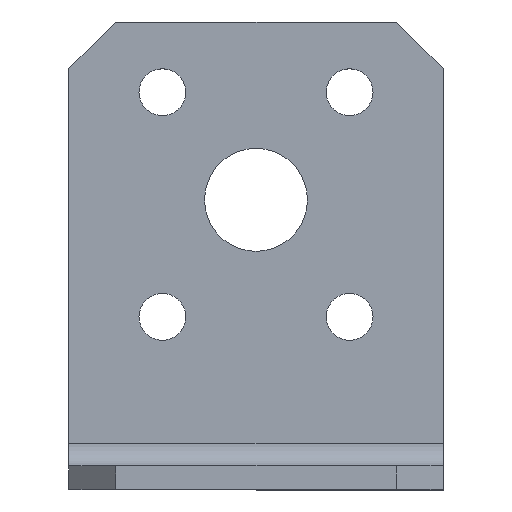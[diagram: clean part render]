
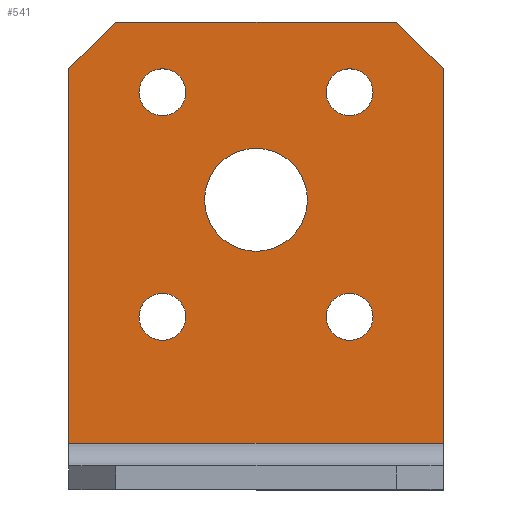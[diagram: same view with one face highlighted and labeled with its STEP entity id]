
A CAD part, top view. The second image highlights one B-rep face of the part: STEP entity #541.
In plain terms, the highlighted planar face has unit normal (0, 0, 1).
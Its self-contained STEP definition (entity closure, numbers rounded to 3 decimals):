
#9 = DIRECTION ( 'NONE',  ( 0., -1., 0. ) ) ;
#14 = ORIENTED_EDGE ( 'NONE', *, *, #347, .T. ) ;
#16 = VECTOR ( 'NONE', #75, 1000. ) ;
#24 = LINE ( 'NONE', #288, #480 ) ;
#27 = VERTEX_POINT ( 'NONE', #1242 ) ;
#30 = EDGE_CURVE ( 'NONE', #963, #275, #922, .T. ) ;
#34 = CARTESIAN_POINT ( 'NONE',  ( 20., 0., -22.5 ) ) ;
#50 = CIRCLE ( 'NONE', #320, 2.5 ) ;
#69 = CARTESIAN_POINT ( 'NONE',  ( 10., 17.5, -22.5 ) ) ;
#75 = DIRECTION ( 'NONE',  ( 0.707, 0.707, 0. ) ) ;
#89 = EDGE_LOOP ( 'NONE', ( #857, #904 ) ) ;
#115 = DIRECTION ( 'NONE',  ( 0., 0., -1. ) ) ;
#118 = CARTESIAN_POINT ( 'NONE',  ( -20., 0., -22.5 ) ) ;
#121 = LINE ( 'NONE', #118, #1155 ) ;
#134 = DIRECTION ( 'NONE',  ( 0., 0., -1. ) ) ;
#136 = CIRCLE ( 'NONE', #947, 5.5 ) ;
#142 = EDGE_CURVE ( 'NONE', #1121, #516, #121, .T. ) ;
#147 = ORIENTED_EDGE ( 'NONE', *, *, #452, .F. ) ;
#156 = DIRECTION ( 'NONE',  ( 0., 0., -1. ) ) ;
#160 = CARTESIAN_POINT ( 'NONE',  ( -10., 17.5, -22.5 ) ) ;
#173 = EDGE_CURVE ( 'NONE', #473, #481, #442, .T. ) ;
#179 = ORIENTED_EDGE ( 'NONE', *, *, #555, .T. ) ;
#188 = VECTOR ( 'NONE', #1138, 1000. ) ;
#206 = CARTESIAN_POINT ( 'NONE',  ( 20., 20., -22.5 ) ) ;
#218 = DIRECTION ( 'NONE',  ( 1., 0., 0. ) ) ;
#222 = EDGE_CURVE ( 'NONE', #1150, #284, #1022, .T. ) ;
#224 = FACE_BOUND ( 'NONE', #89, .T. ) ;
#234 = EDGE_CURVE ( 'NONE', #1019, #535, #733, .T. ) ;
#239 = EDGE_CURVE ( 'NONE', #275, #963, #136, .T. ) ;
#270 = ORIENTED_EDGE ( 'NONE', *, *, #234, .T. ) ;
#275 = VERTEX_POINT ( 'NONE', #626 ) ;
#284 = VERTEX_POINT ( 'NONE', #536 ) ;
#288 = CARTESIAN_POINT ( 'NONE',  ( 17.5, 22.5, -22.5 ) ) ;
#302 = DIRECTION ( 'NONE',  ( 0., 0., -1. ) ) ;
#320 = AXIS2_PLACEMENT_3D ( 'NONE', #69, #739, #1113 ) ;
#323 = ORIENTED_EDGE ( 'NONE', *, *, #435, .F. ) ;
#325 = DIRECTION ( 'NONE',  ( 1., 0., 0. ) ) ;
#334 = CARTESIAN_POINT ( 'NONE',  ( -5.5, 6., -22.5 ) ) ;
#347 = EDGE_CURVE ( 'NONE', #455, #805, #1078, .T. ) ;
#365 = CARTESIAN_POINT ( 'NONE',  ( 12.5, 17.5, -22.5 ) ) ;
#366 = ORIENTED_EDGE ( 'NONE', *, *, #142, .T. ) ;
#375 = CARTESIAN_POINT ( 'NONE',  ( -10., -6.5, -22.5 ) ) ;
#378 = CARTESIAN_POINT ( 'NONE',  ( -20., -20., -22.5 ) ) ;
#379 = CIRCLE ( 'NONE', #1199, 2.5 ) ;
#389 = FACE_BOUND ( 'NONE', #1111, .T. ) ;
#400 = ORIENTED_EDGE ( 'NONE', *, *, #222, .F. ) ;
#402 = VECTOR ( 'NONE', #551, 1000. ) ;
#417 = VECTOR ( 'NONE', #1001, 1000. ) ;
#429 = DIRECTION ( 'NONE',  ( 0., 0., -1. ) ) ;
#435 = EDGE_CURVE ( 'NONE', #284, #516, #458, .T. ) ;
#442 = CIRCLE ( 'NONE', #514, 2.5 ) ;
#452 = EDGE_CURVE ( 'NONE', #1037, #903, #526, .T. ) ;
#455 = VERTEX_POINT ( 'NONE', #559 ) ;
#458 = LINE ( 'NONE', #1241, #188 ) ;
#460 = FACE_BOUND ( 'NONE', #714, .T. ) ;
#467 = CIRCLE ( 'NONE', #971, 2.5 ) ;
#473 = VERTEX_POINT ( 'NONE', #656 ) ;
#476 = CIRCLE ( 'NONE', #911, 2.5 ) ;
#480 = VECTOR ( 'NONE', #668, 1000. ) ;
#481 = VERTEX_POINT ( 'NONE', #365 ) ;
#493 = FACE_BOUND ( 'NONE', #972, .T. ) ;
#498 = CARTESIAN_POINT ( 'NONE',  ( 10., -6.5, -22.5 ) ) ;
#511 = CARTESIAN_POINT ( 'NONE',  ( -12.5, 17.5, -22.5 ) ) ;
#514 = AXIS2_PLACEMENT_3D ( 'NONE', #776, #115, #591 ) ;
#516 = VERTEX_POINT ( 'NONE', #378 ) ;
#526 = LINE ( 'NONE', #946, #402 ) ;
#535 = VERTEX_POINT ( 'NONE', #859 ) ;
#536 = CARTESIAN_POINT ( 'NONE',  ( 20., -20., -22.5 ) ) ;
#541 = ADVANCED_FACE ( 'NONE', ( #460, #224, #1204, #389, #493, #696 ), #754, .T. ) ;
#542 = EDGE_CURVE ( 'NONE', #1121, #1037, #826, .T. ) ;
#551 = DIRECTION ( 'NONE',  ( 1., 0., 0. ) ) ;
#555 = EDGE_CURVE ( 'NONE', #805, #455, #476, .T. ) ;
#559 = CARTESIAN_POINT ( 'NONE',  ( -7.5, 17.5, -22.5 ) ) ;
#565 = DIRECTION ( 'NONE',  ( 0., 0., -1. ) ) ;
#591 = DIRECTION ( 'NONE',  ( 1., 0., 0. ) ) ;
#612 = CARTESIAN_POINT ( 'NONE',  ( 0., 6., -22.5 ) ) ;
#626 = CARTESIAN_POINT ( 'NONE',  ( 5.5, 6., -22.5 ) ) ;
#634 = DIRECTION ( 'NONE',  ( 1., 0., 0. ) ) ;
#653 = CARTESIAN_POINT ( 'NONE',  ( 20., 25., -22.5 ) ) ;
#655 = CARTESIAN_POINT ( 'NONE',  ( -15., 25., -22.5 ) ) ;
#656 = CARTESIAN_POINT ( 'NONE',  ( 7.5, 17.5, -22.5 ) ) ;
#668 = DIRECTION ( 'NONE',  ( 0.707, -0.707, 0. ) ) ;
#696 = FACE_OUTER_BOUND ( 'NONE', #944, .T. ) ;
#703 = CARTESIAN_POINT ( 'NONE',  ( 7.5, -6.5, -22.5 ) ) ;
#714 = EDGE_LOOP ( 'NONE', ( #14, #179 ) ) ;
#733 = CIRCLE ( 'NONE', #1014, 2.5 ) ;
#739 = DIRECTION ( 'NONE',  ( 0., 0., -1. ) ) ;
#754 = PLANE ( 'NONE',  #1120 ) ;
#756 = AXIS2_PLACEMENT_3D ( 'NONE', #375, #872, #1151 ) ;
#760 = EDGE_CURVE ( 'NONE', #27, #818, #467, .T. ) ;
#764 = ORIENTED_EDGE ( 'NONE', *, *, #173, .T. ) ;
#772 = EDGE_LOOP ( 'NONE', ( #1118, #764 ) ) ;
#774 = AXIS2_PLACEMENT_3D ( 'NONE', #160, #429, #1195 ) ;
#776 = CARTESIAN_POINT ( 'NONE',  ( 10., 17.5, -22.5 ) ) ;
#784 = CARTESIAN_POINT ( 'NONE',  ( -10., 17.5, -22.5 ) ) ;
#805 = VERTEX_POINT ( 'NONE', #511 ) ;
#818 = VERTEX_POINT ( 'NONE', #703 ) ;
#820 = ORIENTED_EDGE ( 'NONE', *, *, #1218, .T. ) ;
#826 = LINE ( 'NONE', #1050, #16 ) ;
#835 = ORIENTED_EDGE ( 'NONE', *, *, #895, .T. ) ;
#848 = CIRCLE ( 'NONE', #756, 2.5 ) ;
#855 = DIRECTION ( 'NONE',  ( 1., 0., 0. ) ) ;
#857 = ORIENTED_EDGE ( 'NONE', *, *, #239, .T. ) ;
#859 = CARTESIAN_POINT ( 'NONE',  ( -12.5, -6.5, -22.5 ) ) ;
#872 = DIRECTION ( 'NONE',  ( 0., 0., -1. ) ) ;
#895 = EDGE_CURVE ( 'NONE', #818, #27, #379, .T. ) ;
#901 = DIRECTION ( 'NONE',  ( 0., 0., -1. ) ) ;
#903 = VERTEX_POINT ( 'NONE', #916 ) ;
#904 = ORIENTED_EDGE ( 'NONE', *, *, #30, .T. ) ;
#908 = DIRECTION ( 'NONE',  ( 0., 0., -1. ) ) ;
#910 = DIRECTION ( 'NONE',  ( 1., 0., 0. ) ) ;
#911 = AXIS2_PLACEMENT_3D ( 'NONE', #784, #302, #218 ) ;
#916 = CARTESIAN_POINT ( 'NONE',  ( 15., 25., -22.5 ) ) ;
#922 = CIRCLE ( 'NONE', #940, 5.5 ) ;
#940 = AXIS2_PLACEMENT_3D ( 'NONE', #1146, #565, #855 ) ;
#944 = EDGE_LOOP ( 'NONE', ( #1085, #147, #1108, #366, #323, #400 ) ) ;
#946 = CARTESIAN_POINT ( 'NONE',  ( 20., 25., -22.5 ) ) ;
#947 = AXIS2_PLACEMENT_3D ( 'NONE', #612, #134, #1190 ) ;
#955 = DIRECTION ( 'NONE',  ( 0., 0., 1. ) ) ;
#963 = VERTEX_POINT ( 'NONE', #334 ) ;
#971 = AXIS2_PLACEMENT_3D ( 'NONE', #498, #908, #325 ) ;
#972 = EDGE_LOOP ( 'NONE', ( #995, #835 ) ) ;
#995 = ORIENTED_EDGE ( 'NONE', *, *, #760, .T. ) ;
#1001 = DIRECTION ( 'NONE',  ( 0., -1., 0. ) ) ;
#1014 = AXIS2_PLACEMENT_3D ( 'NONE', #1088, #901, #910 ) ;
#1019 = VERTEX_POINT ( 'NONE', #1128 ) ;
#1022 = LINE ( 'NONE', #34, #417 ) ;
#1037 = VERTEX_POINT ( 'NONE', #655 ) ;
#1050 = CARTESIAN_POINT ( 'NONE',  ( -17.5, 22.5, -22.5 ) ) ;
#1078 = CIRCLE ( 'NONE', #774, 2.5 ) ;
#1085 = ORIENTED_EDGE ( 'NONE', *, *, #1168, .F. ) ;
#1088 = CARTESIAN_POINT ( 'NONE',  ( -10., -6.5, -22.5 ) ) ;
#1101 = EDGE_CURVE ( 'NONE', #481, #473, #50, .T. ) ;
#1108 = ORIENTED_EDGE ( 'NONE', *, *, #542, .F. ) ;
#1111 = EDGE_LOOP ( 'NONE', ( #270, #820 ) ) ;
#1113 = DIRECTION ( 'NONE',  ( 1., 0., 0. ) ) ;
#1118 = ORIENTED_EDGE ( 'NONE', *, *, #1101, .T. ) ;
#1120 = AXIS2_PLACEMENT_3D ( 'NONE', #653, #955, #1143 ) ;
#1121 = VERTEX_POINT ( 'NONE', #1212 ) ;
#1128 = CARTESIAN_POINT ( 'NONE',  ( -7.5, -6.5, -22.5 ) ) ;
#1138 = DIRECTION ( 'NONE',  ( -1., 0., 0. ) ) ;
#1143 = DIRECTION ( 'NONE',  ( 1., 0., 0. ) ) ;
#1146 = CARTESIAN_POINT ( 'NONE',  ( 0., 6., -22.5 ) ) ;
#1150 = VERTEX_POINT ( 'NONE', #206 ) ;
#1151 = DIRECTION ( 'NONE',  ( 1., 0., 0. ) ) ;
#1155 = VECTOR ( 'NONE', #9, 1000. ) ;
#1168 = EDGE_CURVE ( 'NONE', #903, #1150, #24, .T. ) ;
#1189 = CARTESIAN_POINT ( 'NONE',  ( 10., -6.5, -22.5 ) ) ;
#1190 = DIRECTION ( 'NONE',  ( 1., 0., 0. ) ) ;
#1195 = DIRECTION ( 'NONE',  ( 1., 0., 0. ) ) ;
#1199 = AXIS2_PLACEMENT_3D ( 'NONE', #1189, #156, #634 ) ;
#1204 = FACE_BOUND ( 'NONE', #772, .T. ) ;
#1212 = CARTESIAN_POINT ( 'NONE',  ( -20., 20., -22.5 ) ) ;
#1218 = EDGE_CURVE ( 'NONE', #535, #1019, #848, .T. ) ;
#1241 = CARTESIAN_POINT ( 'NONE',  ( 0., -20., -22.5 ) ) ;
#1242 = CARTESIAN_POINT ( 'NONE',  ( 12.5, -6.5, -22.5 ) ) ;
